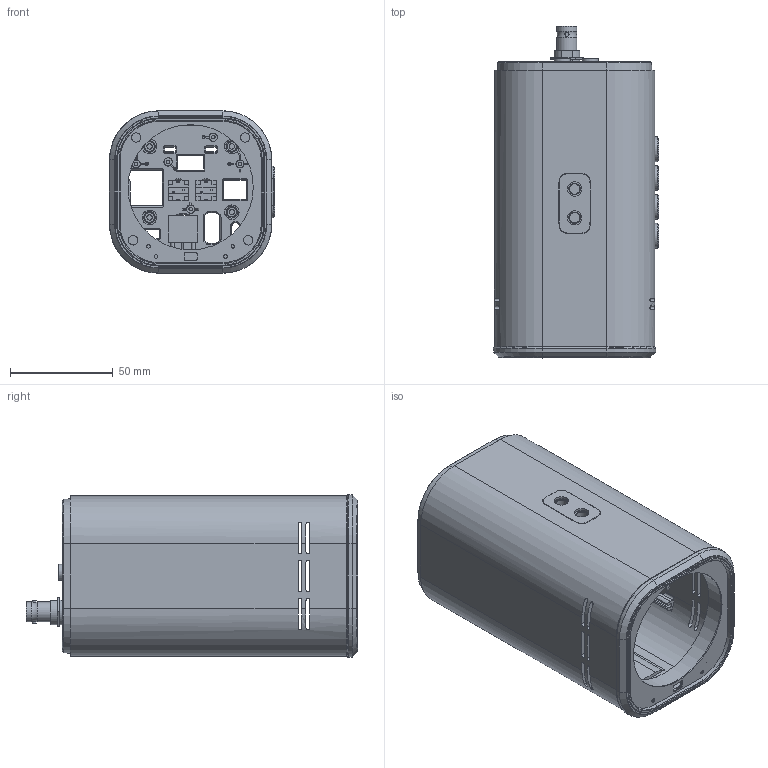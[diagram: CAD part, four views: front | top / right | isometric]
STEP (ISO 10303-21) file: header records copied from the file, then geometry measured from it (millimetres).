
FILE_DESCRIPTION(/* description */ (''),/* implementation_level */ '2;1');
FILE_NAME(/* name */ 'MAKI-Ultra.step',/* time_stamp */ '2024-03-19T10:25:06+11:00',/* author */ (''),/* organization */ (''),/* preprocessor_version */ 'ST-DEVELOPER v20',/* originating_system */ 'Autodesk Translation Framework v12.20.1.177',/* authorisation */ '');
FILE_SCHEMA (('AUTOMOTIVE_DESIGN { 1 0 10303 214 3 1 1 }'));
Products named in the file (21): jx2612B_x1_20240222_asm; MAKI Ultra; ASM0001_ASM_14_ASM_4_ASM; HOUGAI_ASM_14_ASM_2_ASM; JX2612B-003_ASM; JX2612B-003; TIEMO; PCB_ASM_14_ASM_2_ASM; SDI_14_ASM_1_ASM; SDI_14_1_1; SDI_14_2_1; 6-AUDIO_3_3_14_14_1; ASM0002_ASM_14_ASM_4_ASM; JX2612B-005; JX2612B-002; PMMA; JX2612B-001; ANJIAN_ASM_14_ASM_1_ASM; JX2612B-006; BREP_4_1_1_14_2; BREP_2_1_1_14_2
Assembly tree (21 placements, depth 7):
  jx2612B_x1_20240222_asm
    MAKI Ultra
      ASM0001_ASM_14_ASM_4_ASM
        HOUGAI_ASM_14_ASM_2_ASM
          JX2612B-003_ASM
            JX2612B-003
          TIEMO
          PCB_ASM_14_ASM_2_ASM
            SDI_14_ASM_1_ASM
              SDI_14_1_1
              SDI_14_2_1
            6-AUDIO_3_3_14_14_1  x2
        ASM0002_ASM_14_ASM_4_ASM
          JX2612B-005
          JX2612B-002
          PMMA
        JX2612B-001
        ANJIAN_ASM_14_ASM_1_ASM
          JX2612B-006
      BREP_4_1_1_14_2
      BREP_2_1_1_14_2
Bounding box: 80.3 x 161.4 x 79 mm (x, y, z)
Volume: 143224.4 mm3; surface area: 131545.3 mm2
Topology: 13 solids, 13 shells, 1773 faces, 4641 edges, 2977 vertices
Faces by surface type: plane 1009, cylinder 447, cone 262, bspline 38, torus 17
Full cylindrical faces by diameter (mm): 1 x1, 1.7 x7, 1.8 x4, 2 x6, 2.05 x8, 2.1 x1, 2.6 x4, 3 x1, 3.3 x3, 3.5 x2, 4.6 x4, 5 x9, 7 x4, 7.83 x2, 8.293 x2, 8.5 x1, 9.7 x2, 13 x1, 13.163 x1, 60.9 x1
Entity records: 57394 total; most frequent: CARTESIAN_POINT 13205, DIRECTION 9046, ORIENTED_EDGE 9044, EDGE_CURVE 4522, AXIS2_PLACEMENT_3D 3126, VERTEX_POINT 2898, LINE 2794, VECTOR 2794
